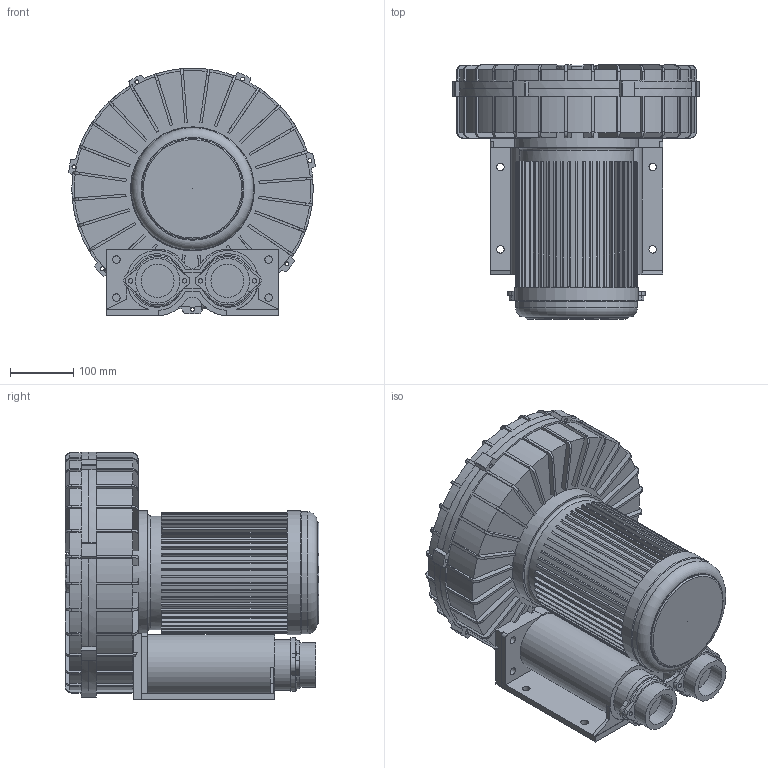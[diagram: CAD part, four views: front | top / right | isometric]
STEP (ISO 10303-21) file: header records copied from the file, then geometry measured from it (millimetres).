
FILE_DESCRIPTION(/* description */ ('Unknown'),/* implementation_level */ '2;1');
FILE_NAME(/* name */ '20201125 RB-3',/* time_stamp */ '2020-11-28T01:47:46+08:00',/* author */ ('å¤§èºè¨­è¨æéå¬å¸'),/* organization */ ('Unknown'),/* preprocessor_version */ 'ST-DEVELOPER v16.7',/* originating_system */ 'DEX',/* authorisation */ $);
FILE_SCHEMA (('AUTOMOTIVE_DESIGN {1 0 10303 214 3 1 1}'));
Length unit declared in the file: millimetre
Products named in the file (1): 20201125 RB-3
Bounding box: 388.85 x 400.01 x 389.99 mm (x, y, z)
Volume: 23265671.7 mm3; surface area: 1015931.7 mm2
Topology: 1 solids, 1 shells, 932 faces, 2754 edges, 1831 vertices
Faces by surface type: plane 576, cylinder 274, torus 64, cone 18
Full cylindrical faces by diameter (mm): 5.99 x1, 6.119 x6, 7 x4, 11.755 x3, 12 x5, 52.001 x2, 60 x1, 70 x2, 80.146 x2, 159.154 x1, 179.154 x1, 192.154 x1, 195 x1, 195.154 x1
Entity records: 31599 total; most frequent: CARTESIAN_POINT 6377, ORIENTED_EDGE 5420, DIRECTION 5224, EDGE_CURVE 2710, VERTEX_POINT 1827, AXIS2_PLACEMENT_3D 1825, LINE 1574, VECTOR 1574
